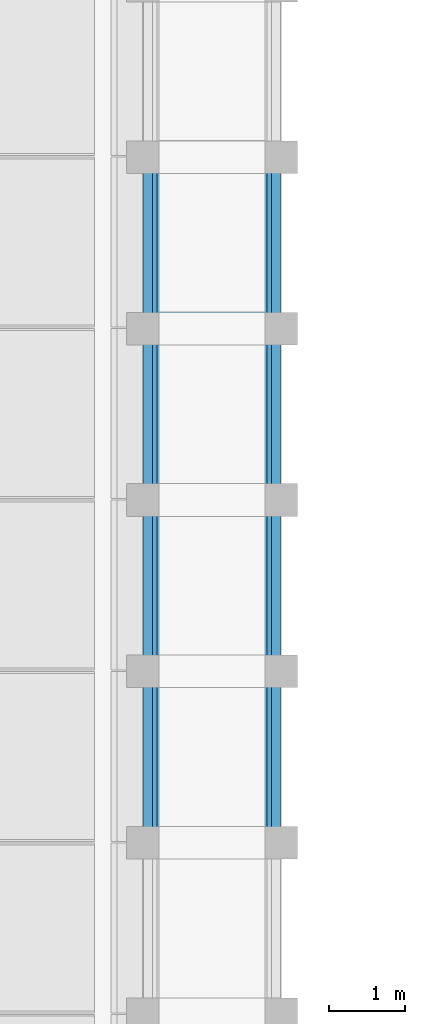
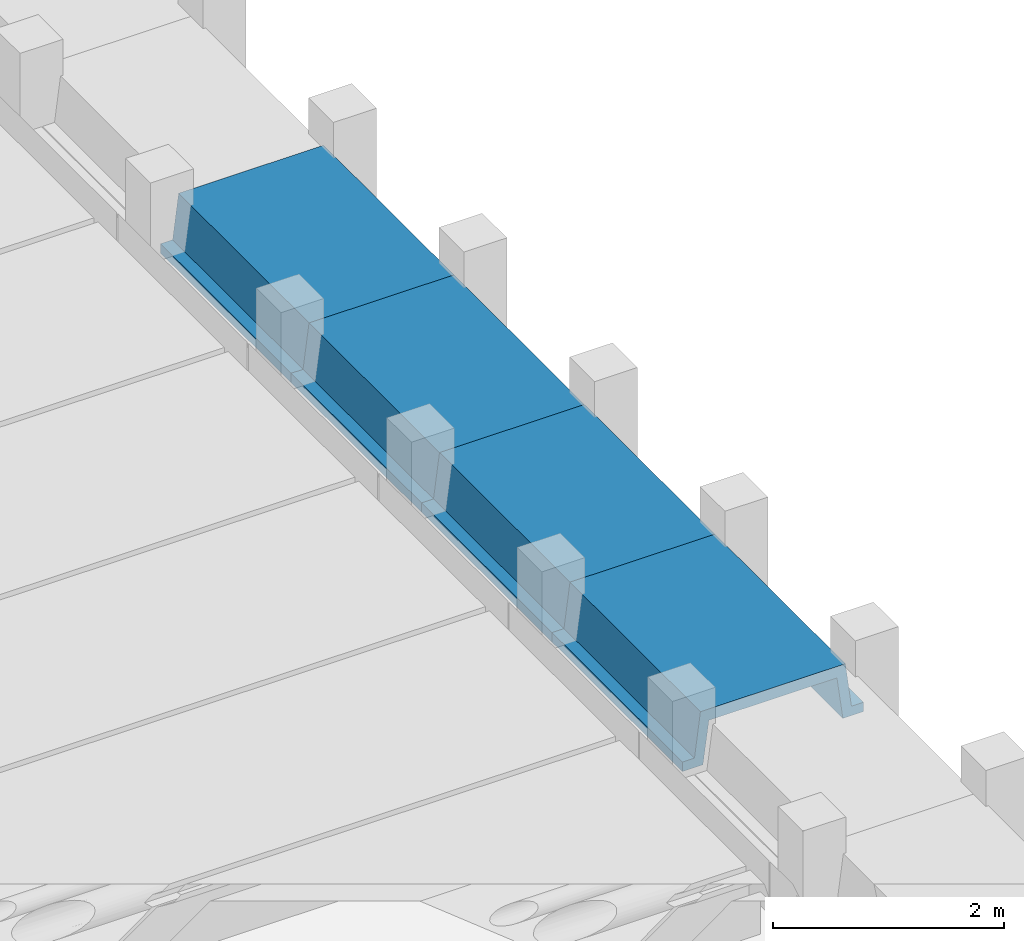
# One storey, part 5 of 21: 4 beams.
"""IFC2X3 building model written with IfcOpenShell, lengths in millimetres."""

from ifc_helpers import new_model, entity, si_unit, converted_unit, derived_unit, direction, frame, origin, place, context, subcontext, project, spatial, polyline, outline, extrude, material, type_object, element, save


model = new_model("IFC2X3")

# Units and contexts
model_context = context("Model", 3, precision=0.01, world=origin(), true_north=direction((6.12303176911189e-17, 1.0)))
body_context = subcontext(model_context, "Body", "Model", "MODEL_VIEW")
ifc_project = project(units=[si_unit("LENGTHUNIT", "METRE", prefix="MILLI"), si_unit("AREAUNIT", "SQUARE_METRE"), si_unit("VOLUMEUNIT", "CUBIC_METRE"), converted_unit("PLANEANGLEUNIT", "DEGREE", entity("IfcRatioMeasure", 0.0174532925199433), si_unit("PLANEANGLEUNIT", "RADIAN"), dimensions=[0, 0, 0, 0, 0, 0, 0]), si_unit("MASSUNIT", "GRAM", prefix="KILO"), derived_unit("MASSDENSITYUNIT", [(si_unit("MASSUNIT", "GRAM", prefix="KILO"), 1), (si_unit("LENGTHUNIT", "METRE"), -3)]), derived_unit("MOMENTOFINERTIAUNIT", [(si_unit("LENGTHUNIT", "METRE"), 4)]), si_unit("TIMEUNIT", "SECOND"), si_unit("FREQUENCYUNIT", "HERTZ"), si_unit("THERMODYNAMICTEMPERATUREUNIT", "DEGREE_CELSIUS"), derived_unit("THERMALTRANSMITTANCEUNIT", [(si_unit("MASSUNIT", "GRAM", prefix="KILO"), 1), (si_unit("THERMODYNAMICTEMPERATUREUNIT", "KELVIN"), -1), (si_unit("TIMEUNIT", "SECOND"), -3)]), derived_unit("VOLUMETRICFLOWRATEUNIT", [(si_unit("LENGTHUNIT", "METRE"), 3), (si_unit("TIMEUNIT", "SECOND"), -1)]), si_unit("ELECTRICCURRENTUNIT", "AMPERE"), si_unit("ELECTRICVOLTAGEUNIT", "VOLT"), si_unit("POWERUNIT", "WATT"), si_unit("FORCEUNIT", "NEWTON", prefix="KILO"), si_unit("ILLUMINANCEUNIT", "LUX"), si_unit("LUMINOUSFLUXUNIT", "LUMEN"), si_unit("LUMINOUSINTENSITYUNIT", "CANDELA"), derived_unit("USERDEFINED", [(si_unit("MASSUNIT", "GRAM", prefix="KILO"), -1), (si_unit("LENGTHUNIT", "METRE"), -2), (si_unit("TIMEUNIT", "SECOND"), 3), (si_unit("LUMINOUSFLUXUNIT", "LUMEN"), 1)]), derived_unit("LINEARVELOCITYUNIT", [(si_unit("LENGTHUNIT", "METRE"), 1), (si_unit("TIMEUNIT", "SECOND"), -1)]), si_unit("PRESSUREUNIT", "PASCAL"), derived_unit("USERDEFINED", [(si_unit("LENGTHUNIT", "METRE"), -2), (si_unit("MASSUNIT", "GRAM", prefix="KILO"), 1), (si_unit("TIMEUNIT", "SECOND"), -2)]), derived_unit("LINEARFORCEUNIT", [(si_unit("MASSUNIT", "GRAM", prefix="KILO"), 1), (si_unit("LENGTHUNIT", "METRE"), 1), (si_unit("TIMEUNIT", "SECOND"), -2), (si_unit("LENGTHUNIT", "METRE"), -1)]), derived_unit("PLANARFORCEUNIT", [(si_unit("MASSUNIT", "GRAM", prefix="KILO"), 1), (si_unit("LENGTHUNIT", "METRE"), 1), (si_unit("TIMEUNIT", "SECOND"), -2), (si_unit("LENGTHUNIT", "METRE"), -2)])], contexts=[model_context])

# Site, building, storey
site_placement = place(None, frame((10627.5135316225, 21939.0796949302, 0.0)))
site = spatial("IfcSite", under=ifc_project, at=site_placement, Name="Default", CompositionType="ELEMENT")
building_placement = place(site_placement, origin())
building = spatial("IfcBuilding", under=site, at=building_placement, CompositionType="ELEMENT")
storey_placement = place(building_placement, frame((0.0, 0.0, 7320.0)))
storey = spatial("IfcBuildingStorey", under=building, at=storey_placement, Name="R+2", CompositionType="ELEMENT", Elevation=7320.0)

# Beams
ifc_material = material(Name="Concrete, Precast Smooth, Light Grey")
beam_type = type_object("IfcBeamType", Name="Poutre petite:Poutre petite", PredefinedType="NOTDEFINED")
for number, where, z_axis, x_axis, name in (
    (1, (667.48646837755, 660.920305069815, 3530.00034615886), (0.0, 0.0, 1.0), (0.0, 1.0, 0.0), "Poutre petite:Poutre petite"),
    (2, (667.48646837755, -1599.07969493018, 3530.00034615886), (0.0, 0.0, 1.0), (0.0, 1.0, 0.0), "Poutre petite:Poutre petite"),
    (3, (667.48646837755, -3859.07969493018, 3530.00034615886), (0.0, 0.0, 1.0), (0.0, 1.0, 0.0), "Poutre petite:Poutre petite"),
    (4, (667.48646837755, -6119.07969493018, 3530.00034615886), (0.0, 0.0, 1.0), (0.0, 1.0, 0.0), "Poutre petite:Poutre petite"),
):
    element("IfcBeam", number, at=place(storey_placement, frame(where, z_axis=z_axis, x_axis=x_axis)), inside=storey, type_object=beam_type, material=ifc_material, Name=name, ObjectType="Poutre petite:Poutre petite", context=body_context, shape_type="SweptSolid", body=[
        extrude(outline(polyline([(103.333217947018, -905.013684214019), (203.333564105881, -905.013684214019), (203.333564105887, -700.013730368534), (-246.666782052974, -640.013684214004), (-246.666782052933, 640.013497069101), (203.333564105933, 700.013543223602), (203.333564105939, 905.014058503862), (103.333217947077, 905.014058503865), (103.333217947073, 785.01349706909), (-366.666782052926, 725.013497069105), (-366.666782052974, -725.013684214), (103.333217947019, -785.013684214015), (103.333217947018, -905.013684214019)])), frame((0.0, -0.000187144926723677, -366.66678205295), z_axis=(1.0, 0.0, 0.0), x_axis=(0.0, 0.0, -1.0)), (0.0, 0.0, 1.0), 2260.0),
    ])

save(model, "model.ifc")
